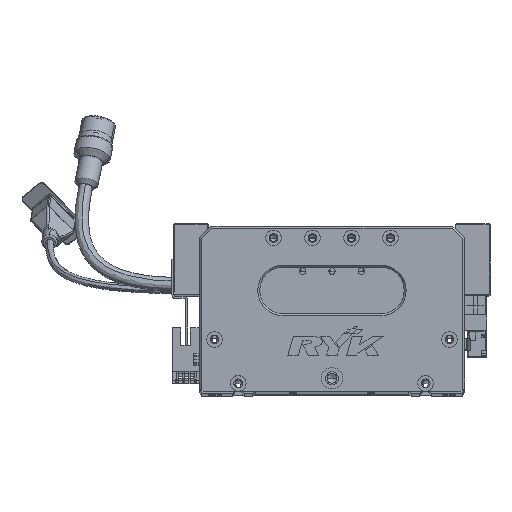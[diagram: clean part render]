
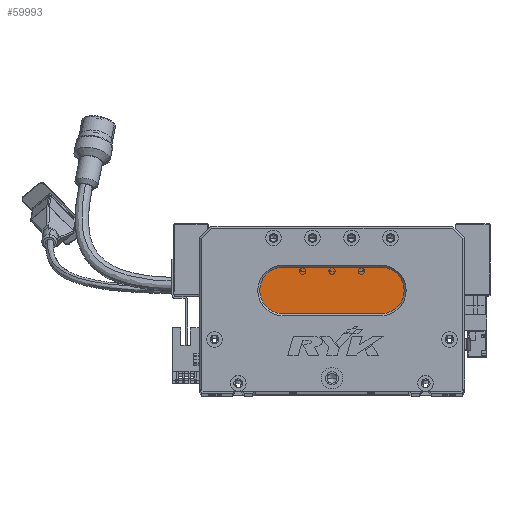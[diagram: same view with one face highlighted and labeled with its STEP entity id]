
A CAD part, top view. The second image highlights one B-rep face of the part: STEP entity #59993.
In plain terms, the highlighted planar face has unit normal (0, 0, 1) as drawn and (0, 0, -1) by its records, which use the part's own axes.
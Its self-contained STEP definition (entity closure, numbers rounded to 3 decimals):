
#3604 = EDGE_CURVE ( 'NONE', #78258, #59620, #33966, .T. ) ;
#3988 = EDGE_CURVE ( 'NONE', #56321, #21989, #7330, .T. ) ;
#4281 = CARTESIAN_POINT ( 'NONE',  ( 31., 52., 13. ) ) ;
#7330 = CIRCLE ( 'NONE', #51864, 12. ) ;
#8210 = ORIENTED_EDGE ( 'NONE', *, *, #42515, .T. ) ;
#9515 = PLANE ( 'NONE',  #49537 ) ;
#9520 = DIRECTION ( 'NONE',  ( -1., 0., 0. ) ) ;
#13526 = DIRECTION ( 'NONE',  ( 0., 0., -1. ) ) ;
#18499 = FACE_OUTER_BOUND ( 'NONE', #40255, .T. ) ;
#21989 = VERTEX_POINT ( 'NONE', #74235 ) ;
#25618 = CARTESIAN_POINT ( 'NONE',  ( 93., 64., 13. ) ) ;
#25757 = ORIENTED_EDGE ( 'NONE', *, *, #78289, .T. ) ;
#26222 = DIRECTION ( 'NONE',  ( -1., 0., 0. ) ) ;
#28169 = ORIENTED_EDGE ( 'NONE', *, *, #3604, .T. ) ;
#31895 = DIRECTION ( 'NONE',  ( 1., 0., 0. ) ) ;
#33394 = ORIENTED_EDGE ( 'NONE', *, *, #3988, .T. ) ;
#33966 = LINE ( 'NONE', #70321, #67620 ) ;
#36153 = AXIS2_PLACEMENT_3D ( 'NONE', #61989, #74861, #9520 ) ;
#39973 = VECTOR ( 'NONE', #31895, 1000. ) ;
#40255 = EDGE_LOOP ( 'NONE', ( #50782, #28169, #8210, #33394, #25757 ) ) ;
#42051 = CARTESIAN_POINT ( 'NONE',  ( 93., 52., 13. ) ) ;
#42515 = EDGE_CURVE ( 'NONE', #59620, #56321, #61196, .T. ) ;
#49537 = AXIS2_PLACEMENT_3D ( 'NONE', #42051, #62529, #56041 ) ;
#49785 = DIRECTION ( 'NONE',  ( -1., 0., 0. ) ) ;
#50782 = ORIENTED_EDGE ( 'NONE', *, *, #83134, .T. ) ;
#51864 = AXIS2_PLACEMENT_3D ( 'NONE', #59440, #13526, #59162 ) ;
#56041 = DIRECTION ( 'NONE',  ( -1., 0., 0. ) ) ;
#56321 = VERTEX_POINT ( 'NONE', #4281 ) ;
#58751 = DIRECTION ( 'NONE',  ( 0., 0., -1. ) ) ;
#58985 = VERTEX_POINT ( 'NONE', #25618 ) ;
#59162 = DIRECTION ( 'NONE',  ( -1., 0., 0. ) ) ;
#59440 = CARTESIAN_POINT ( 'NONE',  ( 43., 52., 13. ) ) ;
#59620 = VERTEX_POINT ( 'NONE', #83768 ) ;
#59993 = ADVANCED_FACE ( 'NONE', ( #18499 ), #9515, .T. ) ;
#61196 = CIRCLE ( 'NONE', #64395, 12. ) ;
#61989 = CARTESIAN_POINT ( 'NONE',  ( 93., 52., 13. ) ) ;
#62529 = DIRECTION ( 'NONE',  ( 0., 0., -1. ) ) ;
#64395 = AXIS2_PLACEMENT_3D ( 'NONE', #77591, #58751, #26222 ) ;
#67620 = VECTOR ( 'NONE', #49785, 1000. ) ;
#70321 = CARTESIAN_POINT ( 'NONE',  ( 93., 40., 13. ) ) ;
#74235 = CARTESIAN_POINT ( 'NONE',  ( 43., 64., 13. ) ) ;
#74861 = DIRECTION ( 'NONE',  ( 0., 0., -1. ) ) ;
#77526 = CARTESIAN_POINT ( 'NONE',  ( 93., 64., 13. ) ) ;
#77591 = CARTESIAN_POINT ( 'NONE',  ( 43., 52., 13. ) ) ;
#78258 = VERTEX_POINT ( 'NONE', #82092 ) ;
#78289 = EDGE_CURVE ( 'NONE', #21989, #58985, #79824, .T. ) ;
#79824 = LINE ( 'NONE', #77526, #39973 ) ;
#79845 = CIRCLE ( 'NONE', #36153, 12. ) ;
#82092 = CARTESIAN_POINT ( 'NONE',  ( 93., 40., 13. ) ) ;
#83134 = EDGE_CURVE ( 'NONE', #58985, #78258, #79845, .T. ) ;
#83768 = CARTESIAN_POINT ( 'NONE',  ( 43., 40., 13. ) ) ;
